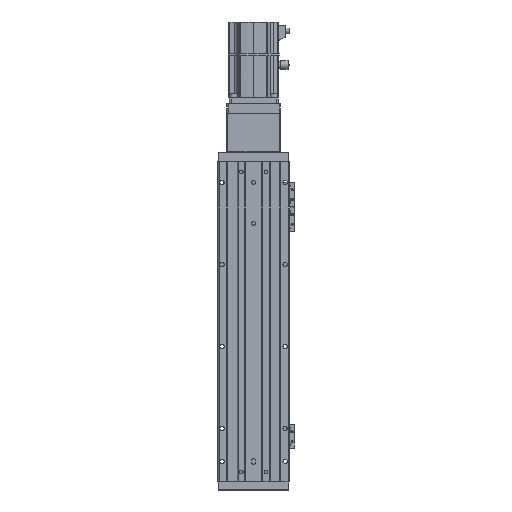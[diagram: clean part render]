
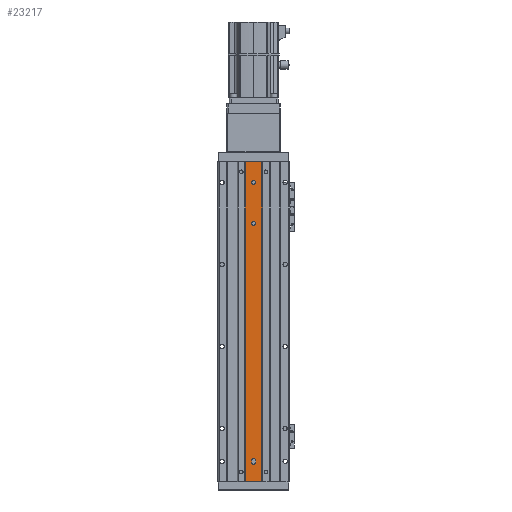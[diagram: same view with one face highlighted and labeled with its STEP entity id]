
A CAD part, front view. The second image highlights one B-rep face of the part: STEP entity #23217.
In plain terms, the highlighted planar face has unit normal (0, -1, 0).
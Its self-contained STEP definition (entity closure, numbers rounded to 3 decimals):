
#70 = AXIS2_PLACEMENT_3D ( 'NONE', #40114, #8286, #22457 ) ;
#597 = ORIENTED_EDGE ( 'NONE', *, *, #20541, .F. ) ;
#619 = CARTESIAN_POINT ( 'NONE',  ( 2.5, 1., -171. ) ) ;
#2574 = VERTEX_POINT ( 'NONE', #26882 ) ;
#2590 = CARTESIAN_POINT ( 'NONE',  ( 0., 1., 170. ) ) ;
#2639 = CIRCLE ( 'NONE', #8581, 2.5 ) ;
#2694 = PLANE ( 'NONE',  #43450 ) ;
#2710 = EDGE_CURVE ( 'NONE', #33246, #12412, #3179, .T. ) ;
#2981 = EDGE_CURVE ( 'NONE', #12412, #22361, #13458, .T. ) ;
#3179 = LINE ( 'NONE', #17334, #8081 ) ;
#3226 = VERTEX_POINT ( 'NONE', #18742 ) ;
#3800 = DIRECTION ( 'NONE',  ( 1., 0., 0. ) ) ;
#3896 = EDGE_CURVE ( 'NONE', #32388, #21452, #24664, .T. ) ;
#4145 = LINE ( 'NONE', #18304, #10672 ) ;
#4576 = CIRCLE ( 'NONE', #30534, 2.5 ) ;
#6157 = FACE_BOUND ( 'NONE', #12411, .T. ) ;
#6504 = DIRECTION ( 'NONE',  ( 1., 0., 0. ) ) ;
#6710 = ORIENTED_EDGE ( 'NONE', *, *, #3896, .F. ) ;
#6997 = DIRECTION ( 'NONE',  ( 0., 0., -1. ) ) ;
#7438 = EDGE_CURVE ( 'NONE', #2574, #22361, #16659, .T. ) ;
#7440 = VERTEX_POINT ( 'NONE', #13191 ) ;
#7661 = AXIS2_PLACEMENT_3D ( 'NONE', #2590, #16762, #30948 ) ;
#7669 = VECTOR ( 'NONE', #45001, 1000. ) ;
#8081 = VECTOR ( 'NONE', #31523, 1000. ) ;
#8286 = DIRECTION ( 'NONE',  ( 0., -1., 0. ) ) ;
#8356 = AXIS2_PLACEMENT_3D ( 'NONE', #24152, #38325, #6504 ) ;
#8581 = AXIS2_PLACEMENT_3D ( 'NONE', #13489, #27667, #41813 ) ;
#8805 = EDGE_LOOP ( 'NONE', ( #40759, #45313 ) ) ;
#10251 = CARTESIAN_POINT ( 'NONE',  ( 2.5, 1., 170. ) ) ;
#10672 = VECTOR ( 'NONE', #32485, 1000. ) ;
#11037 = ORIENTED_EDGE ( 'NONE', *, *, #2710, .F. ) ;
#11391 = EDGE_CURVE ( 'NONE', #22300, #31260, #35371, .T. ) ;
#12411 = EDGE_LOOP ( 'NONE', ( #597, #15582, #6710, #35256 ) ) ;
#12412 = VERTEX_POINT ( 'NONE', #36585 ) ;
#13082 = CARTESIAN_POINT ( 'NONE',  ( -10., 1., 195. ) ) ;
#13191 = CARTESIAN_POINT ( 'NONE',  ( 2.5, 1., -169. ) ) ;
#13458 = LINE ( 'NONE', #27634, #28894 ) ;
#13489 = CARTESIAN_POINT ( 'NONE',  ( 0., 1., 120. ) ) ;
#13503 = EDGE_CURVE ( 'NONE', #45491, #3226, #4576, .T. ) ;
#14791 = DIRECTION ( 'NONE',  ( 0., 0., 1. ) ) ;
#15582 = ORIENTED_EDGE ( 'NONE', *, *, #30412, .F. ) ;
#16353 = CARTESIAN_POINT ( 'NONE',  ( -2.5, 1., -169. ) ) ;
#16355 = ORIENTED_EDGE ( 'NONE', *, *, #11391, .F. ) ;
#16594 = ORIENTED_EDGE ( 'NONE', *, *, #2981, .F. ) ;
#16659 = LINE ( 'NONE', #30845, #7669 ) ;
#16762 = DIRECTION ( 'NONE',  ( 0., -1., 0. ) ) ;
#16857 = CARTESIAN_POINT ( 'NONE',  ( -10., 1., -195. ) ) ;
#16962 = CARTESIAN_POINT ( 'NONE',  ( 0., 1., 120. ) ) ;
#17334 = CARTESIAN_POINT ( 'NONE',  ( -10., 1., -195. ) ) ;
#18304 = CARTESIAN_POINT ( 'NONE',  ( 10., 1., -195. ) ) ;
#18742 = CARTESIAN_POINT ( 'NONE',  ( 2.5, 1., 120. ) ) ;
#19004 = CARTESIAN_POINT ( 'NONE',  ( 2.5, 1., -171. ) ) ;
#19562 = EDGE_LOOP ( 'NONE', ( #37873, #16594, #11037, #42523 ) ) ;
#20080 = CIRCLE ( 'NONE', #70, 2.5 ) ;
#20322 = FACE_BOUND ( 'NONE', #8805, .T. ) ;
#20541 = EDGE_CURVE ( 'NONE', #39721, #7440, #32444, .T. ) ;
#21448 = CARTESIAN_POINT ( 'NONE',  ( 0., 1., 170. ) ) ;
#21452 = VERTEX_POINT ( 'NONE', #40842 ) ;
#22089 = VECTOR ( 'NONE', #14791, 1000. ) ;
#22300 = VERTEX_POINT ( 'NONE', #30048 ) ;
#22361 = VERTEX_POINT ( 'NONE', #13082 ) ;
#22457 = DIRECTION ( 'NONE',  ( 1., 0., 0. ) ) ;
#23217 = ADVANCED_FACE ( 'NONE', ( #37985, #6157, #20322, #34510 ), #2694, .F. ) ;
#24152 = CARTESIAN_POINT ( 'NONE',  ( 0., 1., -169. ) ) ;
#24664 = LINE ( 'NONE', #38827, #35637 ) ;
#26285 = EDGE_LOOP ( 'NONE', ( #37820, #16355 ) ) ;
#26882 = CARTESIAN_POINT ( 'NONE',  ( 10., 1., 195. ) ) ;
#27634 = CARTESIAN_POINT ( 'NONE',  ( -10., 1., -195. ) ) ;
#27667 = DIRECTION ( 'NONE',  ( 0., -1., 0. ) ) ;
#27699 = CIRCLE ( 'NONE', #7661, 2.5 ) ;
#28400 = CIRCLE ( 'NONE', #8356, 2.5 ) ;
#28894 = VECTOR ( 'NONE', #41779, 1000. ) ;
#30048 = CARTESIAN_POINT ( 'NONE',  ( -2.5, 1., 170. ) ) ;
#30412 = EDGE_CURVE ( 'NONE', #21452, #39721, #20080, .T. ) ;
#30534 = AXIS2_PLACEMENT_3D ( 'NONE', #16962, #31138, #45294 ) ;
#30845 = CARTESIAN_POINT ( 'NONE',  ( -10., 1., 195. ) ) ;
#30948 = DIRECTION ( 'NONE',  ( 1., 0., 0. ) ) ;
#31037 = DIRECTION ( 'NONE',  ( 0., 1., 0. ) ) ;
#31138 = DIRECTION ( 'NONE',  ( 0., -1., 0. ) ) ;
#31260 = VERTEX_POINT ( 'NONE', #10251 ) ;
#31523 = DIRECTION ( 'NONE',  ( -1., 0., 0. ) ) ;
#32204 = CARTESIAN_POINT ( 'NONE',  ( -2.5, 1., 120. ) ) ;
#32388 = VERTEX_POINT ( 'NONE', #16353 ) ;
#32444 = LINE ( 'NONE', #619, #22089 ) ;
#32485 = DIRECTION ( 'NONE',  ( 0., 0., 1. ) ) ;
#33246 = VERTEX_POINT ( 'NONE', #45440 ) ;
#34510 = FACE_OUTER_BOUND ( 'NONE', #19562, .T. ) ;
#34662 = EDGE_CURVE ( 'NONE', #7440, #32388, #28400, .T. ) ;
#35238 = EDGE_CURVE ( 'NONE', #31260, #22300, #27699, .T. ) ;
#35256 = ORIENTED_EDGE ( 'NONE', *, *, #34662, .F. ) ;
#35371 = CIRCLE ( 'NONE', #41306, 2.5 ) ;
#35623 = DIRECTION ( 'NONE',  ( 0., -1., 0. ) ) ;
#35637 = VECTOR ( 'NONE', #6997, 1000. ) ;
#35882 = EDGE_CURVE ( 'NONE', #33246, #2574, #4145, .T. ) ;
#36585 = CARTESIAN_POINT ( 'NONE',  ( -10., 1., -195. ) ) ;
#37820 = ORIENTED_EDGE ( 'NONE', *, *, #35238, .F. ) ;
#37873 = ORIENTED_EDGE ( 'NONE', *, *, #7438, .T. ) ;
#37985 = FACE_BOUND ( 'NONE', #26285, .T. ) ;
#38325 = DIRECTION ( 'NONE',  ( 0., -1., 0. ) ) ;
#38827 = CARTESIAN_POINT ( 'NONE',  ( -2.5, 1., -171. ) ) ;
#39721 = VERTEX_POINT ( 'NONE', #19004 ) ;
#40114 = CARTESIAN_POINT ( 'NONE',  ( 0., 1., -171. ) ) ;
#40759 = ORIENTED_EDGE ( 'NONE', *, *, #42501, .F. ) ;
#40842 = CARTESIAN_POINT ( 'NONE',  ( -2.5, 1., -171. ) ) ;
#41306 = AXIS2_PLACEMENT_3D ( 'NONE', #21448, #35623, #3800 ) ;
#41779 = DIRECTION ( 'NONE',  ( 0., 0., 1. ) ) ;
#41813 = DIRECTION ( 'NONE',  ( 1., 0., 0. ) ) ;
#42501 = EDGE_CURVE ( 'NONE', #3226, #45491, #2639, .T. ) ;
#42523 = ORIENTED_EDGE ( 'NONE', *, *, #35882, .T. ) ;
#43450 = AXIS2_PLACEMENT_3D ( 'NONE', #16857, #31037, #45190 ) ;
#45001 = DIRECTION ( 'NONE',  ( -1., 0., 0. ) ) ;
#45190 = DIRECTION ( 'NONE',  ( -1., 0., 0. ) ) ;
#45294 = DIRECTION ( 'NONE',  ( 1., 0., 0. ) ) ;
#45313 = ORIENTED_EDGE ( 'NONE', *, *, #13503, .F. ) ;
#45440 = CARTESIAN_POINT ( 'NONE',  ( 10., 1., -195. ) ) ;
#45491 = VERTEX_POINT ( 'NONE', #32204 ) ;
